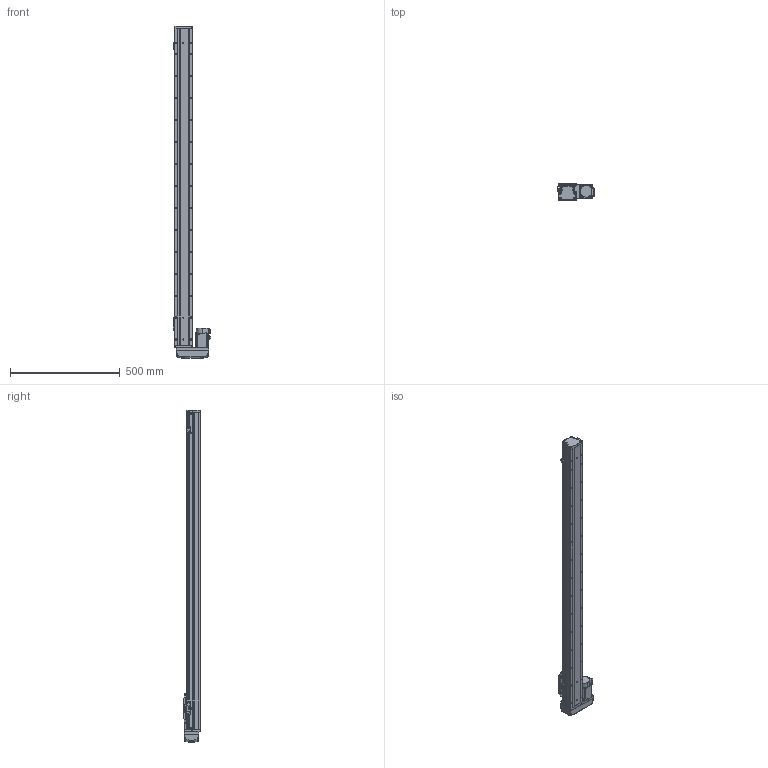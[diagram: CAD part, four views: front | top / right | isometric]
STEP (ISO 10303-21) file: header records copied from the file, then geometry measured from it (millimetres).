
FILE_DESCRIPTION (( 'STEP AP203' ), '1' );
FILE_NAME ('GTH8-1250-BR-M20-C4.step', '2023-08-28T01:00:51', ( '微软用户' ), ( '微软中国' ), 'SwSTEP 2.0', 'SolidWorks 2020', '' );
FILE_SCHEMA (( 'CONFIG_CONTROL_DESIGN' ));
Length unit declared in the file: millimetre
Products named in the file (18): GTH80-004; GTH80-028; 三菱伺服电机[HG-KN23J-S100]; GTH80-006; GTH50-024; GTH8-1250-BR-M20-C4; CTHA86-033_M40B; GTH80-013; GTH50-023; GBT 70.3-M3℅6; GBT96.1-2002 3×0.8; GTH80-022; BTH-M3X5X6; GTH80-001_1250; GBT 70.1-M3℅6; CTHA86-015-1_CTHA86-015-2; GTH80-003; GBT 70.1-M4×16
Assembly tree (57 placements, depth 2):
  GTH8-1250-BR-M20-C4
    GTH80-001_1250
    GTH80-003
    GTH80-004
    GTH80-006
    GTH80-013
    GBT 70.3-M3℅6  x4
    GTH80-022
    GBT 70.1-M3℅6  x14
    GBT 70.1-M4×16  x8
    GTH80-028  x2
    GTH50-024  x3
    GTH50-023  x3
    GBT96.1-2002 3×0.8  x6
    BTH-M3X5X6  x8
    CTHA86-015-1_CTHA86-015-2
    CTHA86-033_M40B
    三菱伺服电机[HG-KN23J-S100]
Bounding box: 169.7 x 78 x 1511 mm (x, y, z)
Volume: 7150237 mm3; surface area: 675768.5 mm2
Topology: 59 solids, 59 shells, 2216 faces, 5173 edges, 3181 vertices
Faces by surface type: plane 1151, cylinder 631, cone 260, torus 158, bspline 8, sphere 8
Entity records: 42491 total; most frequent: CARTESIAN_POINT 9323, DIRECTION 6324, ORIENTED_EDGE 6164, EDGE_CURVE 3082, AXIS2_PLACEMENT_3D 2190, VERTEX_POINT 1956, LINE 1944, VECTOR 1944
